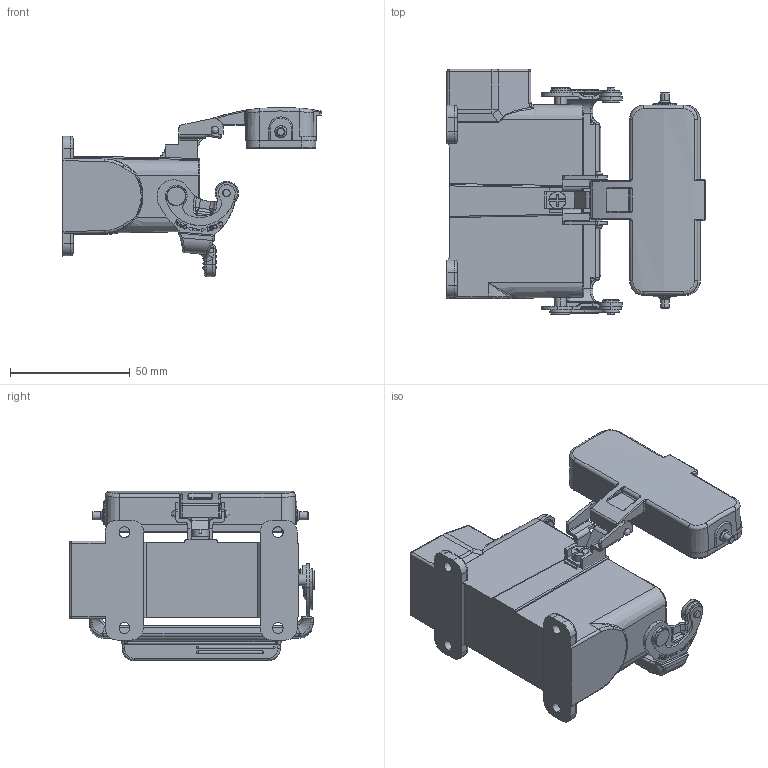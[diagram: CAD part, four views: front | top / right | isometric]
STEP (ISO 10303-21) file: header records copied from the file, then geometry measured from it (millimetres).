
FILE_DESCRIPTION (( 'STEP AP203' ), '1' );
FILE_NAME ('H16A-SDR-M20.STEP', '2023-05-11T12:23:27', ( '' ), ( '' ), 'SwSTEP 2.0', 'SolidWorks 2016', '' );
FILE_SCHEMA (( 'CONFIG_CONTROL_DESIGN' ));
Length unit declared in the file: millimetre
Products named in the file (3): H16A-SDR-M20; H16A-SGR-M25; H16A-AD
Assembly tree (2 placements, depth 2):
  H16A-SDR-M20
    H16A-AD
    H16A-SGR-M25
Bounding box: 107.63 x 102.35 x 70.63 mm (x, y, z)
Volume: 92241.5 mm3; surface area: 53337.4 mm2
Topology: 2 solids, 16 shells, 1415 faces, 3807 edges, 2442 vertices
Faces by surface type: plane 508, cylinder 427, bspline 399, cone 76, torus 5
Entity records: 69747 total; most frequent: CARTESIAN_POINT 39552, ORIENTED_EDGE 7526, DIRECTION 4064, EDGE_CURVE 3763, VERTEX_POINT 2442, B_SPLINE_CURVE_WITH_KNOTS 1878, VECTOR 1516, LINE 1516
